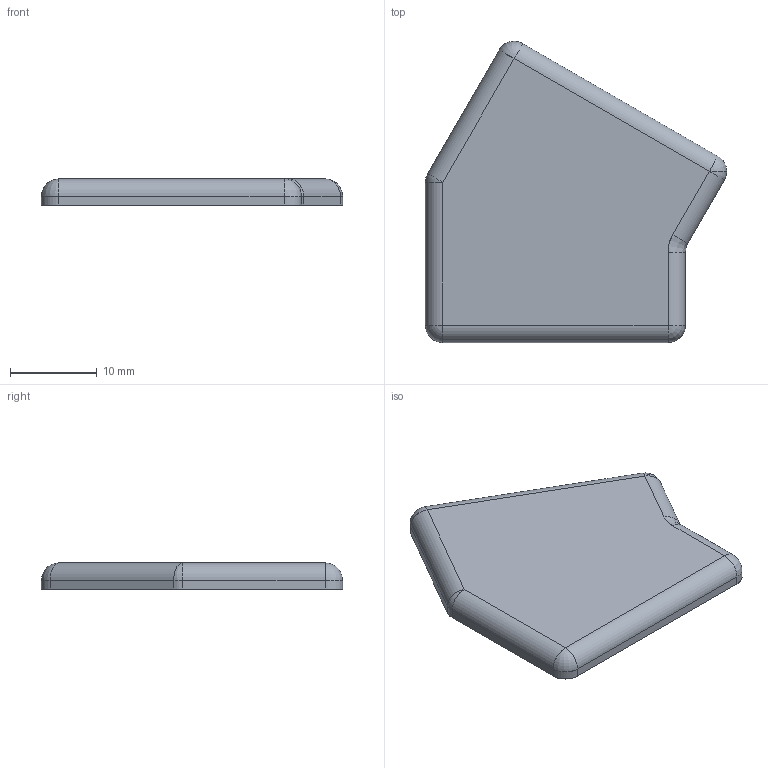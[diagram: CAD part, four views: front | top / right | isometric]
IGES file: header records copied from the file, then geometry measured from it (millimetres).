
Start section: SolidWorks IGES file using analytic representation for surfaces
Global section: file name: C:\Documents and Settings\Administrator\デスクトップ\指定保存後3回目\SolidWorks\SF\SF30\Parts\SFA-J6A.IGS; native system: SolidWorks 2006 by SolidWorks Corporation; preprocessor: SolidWorks 2006 by SolidWorks Corporation; author: Administrator; date: 061213.105512; units: millimetre
Bounding box: 34.76 x 34.76 x 3 mm (x, y, z)
Surface area: 2040.9 mm2 (no closed solid volume)
Topology: 0 solids, 0 shells, 27 faces, 208 edges, 259 vertices
Faces by surface type: revolution 18, bspline 9
